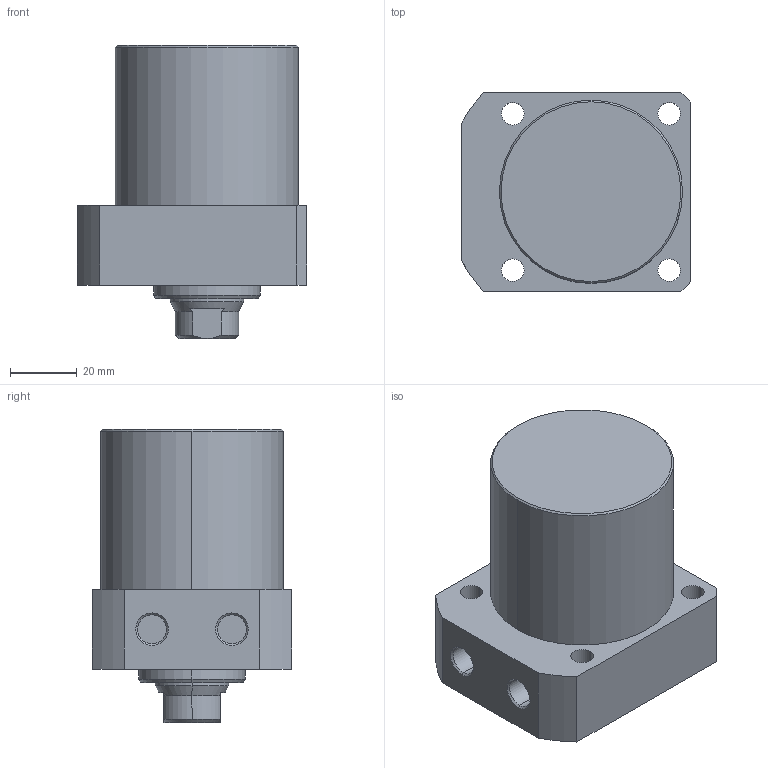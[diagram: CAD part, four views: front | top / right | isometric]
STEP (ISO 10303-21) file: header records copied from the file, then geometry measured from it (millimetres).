
FILE_DESCRIPTION (( 'STEP AP203' ), '1' );
FILE_NAME ('CLLR-055CA-035.STEP', '2019-12-19T07:24:49', ( '' ), ( '' ), 'SwSTEP 2.0', 'SolidWorks 2015', '' );
FILE_SCHEMA (( 'CONFIG_CONTROL_DESIGN' ));
Length unit declared in the file: millimetre
Products named in the file (1): CLLR-055CA-035
Bounding box: 69 x 60 x 88 mm (x, y, z)
Volume: 211676.6 mm3; surface area: 26475.9 mm2
Topology: 1 solids, 1 shells, 65 faces, 151 edges, 94 vertices
Faces by surface type: cylinder 29, plane 19, cone 17
Entity records: 1967 total; most frequent: CARTESIAN_POINT 349, DIRECTION 348, ORIENTED_EDGE 298, EDGE_CURVE 149, AXIS2_PLACEMENT_3D 141, VERTEX_POINT 94, EDGE_LOOP 81, CIRCLE 75
